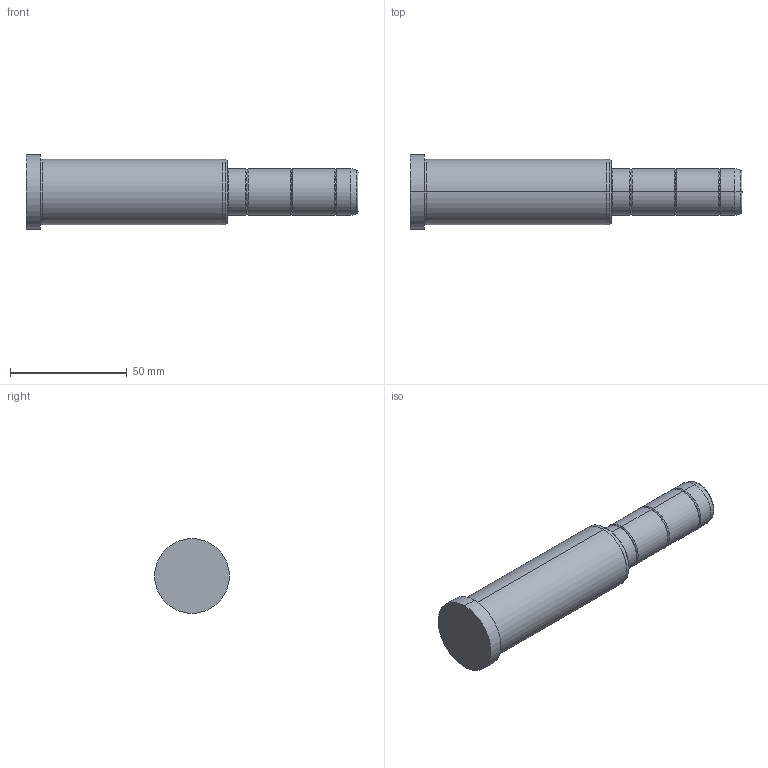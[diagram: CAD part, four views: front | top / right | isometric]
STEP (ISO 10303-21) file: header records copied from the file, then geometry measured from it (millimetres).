
FILE_DESCRIPTION( ( 'STEP AP203' ), '1' );
FILE_NAME( 'C:/Projects/D02 - 20x86x56.step', '2003-01-04T13:48:34', ( ' ' ), ( ' ' ), 'XStep 1.0', ' ', ' ' );
FILE_SCHEMA( ( 'CONFIG_CONTROL_DESIGN' ) );
Length unit declared in the file: metre
Products named in the file (1): 1
Bounding box: 142 x 32 x 32 mm (x, y, z)
Volume: 71586.3 mm3; surface area: 12769.7 mm2
Topology: 1 solids, 1 shells, 42 faces, 82 edges, 46 vertices
Faces by surface type: bspline 22, revolution 20
Entity records: 1325 total; most frequent: CARTESIAN_POINT 517, ORIENTED_EDGE 164, DIRECTION 134, EDGE_CURVE 82, AXIS2_PLACEMENT_3D 47, EDGE_LOOP 46, VERTEX_POINT 46, CIRCLE 46
